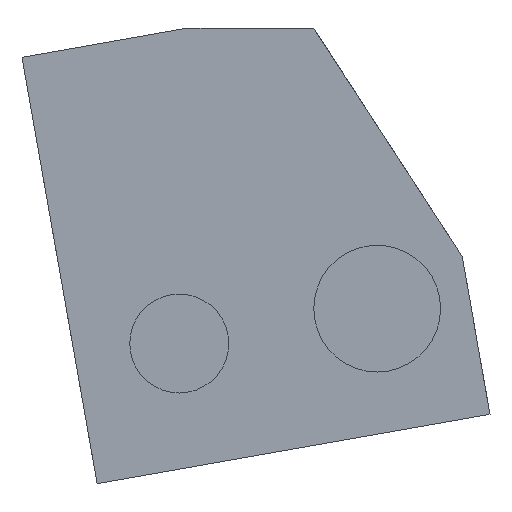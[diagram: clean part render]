
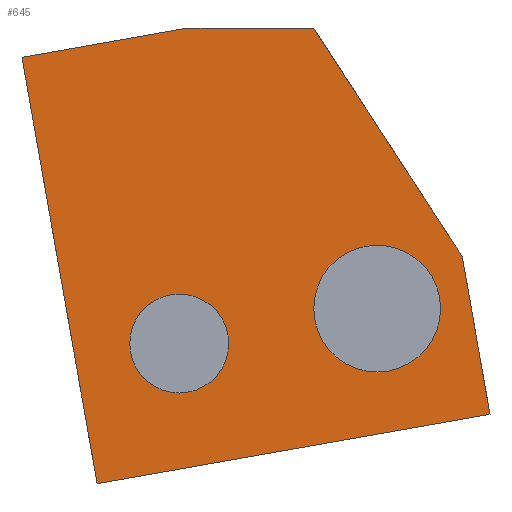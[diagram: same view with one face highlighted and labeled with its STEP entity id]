
A CAD part, left-side view. The second image highlights one B-rep face of the part: STEP entity #645.
In plain terms, the highlighted planar face has unit normal (-1, 0, 0).
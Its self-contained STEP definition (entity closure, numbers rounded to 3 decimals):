
#20=FACE_BOUND('',#115,.T.);
#21=FACE_BOUND('',#116,.T.);
#43=PLANE('',#713);
#75=FACE_OUTER_BOUND('',#114,.T.);
#114=EDGE_LOOP('',(#510,#511,#512,#513,#514,#515));
#115=EDGE_LOOP('',(#516));
#116=EDGE_LOOP('',(#517));
#162=LINE('',#1005,#223);
#167=LINE('',#1025,#228);
#171=LINE('',#1036,#232);
#172=LINE('',#1039,#233);
#173=LINE('',#1041,#234);
#174=LINE('',#1042,#235);
#223=VECTOR('',#797,10.);
#228=VECTOR('',#816,10.);
#232=VECTOR('',#828,10.);
#233=VECTOR('',#831,10.);
#234=VECTOR('',#832,10.);
#235=VECTOR('',#833,10.);
#286=CIRCLE('',#714,1.6);
#287=CIRCLE('',#715,2.05);
#315=VERTEX_POINT('',#1003);
#316=VERTEX_POINT('',#1004);
#324=VERTEX_POINT('',#1024);
#327=VERTEX_POINT('',#1034);
#328=VERTEX_POINT('',#1038);
#329=VERTEX_POINT('',#1040);
#330=VERTEX_POINT('',#1043);
#331=VERTEX_POINT('',#1045);
#383=EDGE_CURVE('',#315,#316,#162,.T.);
#393=EDGE_CURVE('',#316,#324,#167,.T.);
#399=EDGE_CURVE('',#315,#327,#171,.F.);
#400=EDGE_CURVE('',#327,#328,#172,.T.);
#401=EDGE_CURVE('',#328,#329,#173,.T.);
#402=EDGE_CURVE('',#324,#329,#174,.T.);
#403=EDGE_CURVE('',#330,#330,#286,.T.);
#404=EDGE_CURVE('',#331,#331,#287,.T.);
#510=ORIENTED_EDGE('',*,*,#383,.F.);
#511=ORIENTED_EDGE('',*,*,#399,.T.);
#512=ORIENTED_EDGE('',*,*,#400,.T.);
#513=ORIENTED_EDGE('',*,*,#401,.T.);
#514=ORIENTED_EDGE('',*,*,#402,.F.);
#515=ORIENTED_EDGE('',*,*,#393,.F.);
#516=ORIENTED_EDGE('',*,*,#403,.T.);
#517=ORIENTED_EDGE('',*,*,#404,.T.);
#645=ADVANCED_FACE('',(#75,#20,#21),#43,.F.);
#713=AXIS2_PLACEMENT_3D('',#1037,#829,#830);
#714=AXIS2_PLACEMENT_3D('',#1044,#834,#835);
#715=AXIS2_PLACEMENT_3D('',#1046,#836,#837);
#797=DIRECTION('',(0.,-0.545,-0.838));
#816=DIRECTION('',(0.,-0.174,-0.985));
#828=DIRECTION('',(0.,-1.,0.));
#829=DIRECTION('center_axis',(1.,0.,0.));
#830=DIRECTION('ref_axis',(0.,-0.174,-0.985));
#831=DIRECTION('',(0.,0.985,-0.174));
#832=DIRECTION('',(0.,-0.174,-0.985));
#833=DIRECTION('',(0.,0.985,-0.174));
#834=DIRECTION('center_axis',(1.,0.,0.));
#835=DIRECTION('ref_axis',(0.,0.985,-0.174));
#836=DIRECTION('center_axis',(1.,0.,0.));
#837=DIRECTION('ref_axis',(0.,-1.,0.));
#1003=CARTESIAN_POINT('',(41.226,-307.704,65.023));
#1004=CARTESIAN_POINT('',(41.226,-312.506,57.637));
#1005=CARTESIAN_POINT('',(41.226,-301.452,74.638));
#1024=CARTESIAN_POINT('',(41.226,-313.405,52.542));
#1025=CARTESIAN_POINT('',(41.226,-309.671,73.715));
#1034=CARTESIAN_POINT('',(41.226,-303.57,65.023));
#1036=CARTESIAN_POINT('',(41.226,-299.226,65.023));
#1037=CARTESIAN_POINT('Origin',(41.226,-283.274,81.753));
#1038=CARTESIAN_POINT('',(41.226,-298.27,64.089));
#1039=CARTESIAN_POINT('',(41.226,-300.83,64.54));
#1040=CARTESIAN_POINT('',(41.226,-300.701,50.302));
#1041=CARTESIAN_POINT('',(41.226,-299.485,57.195));
#1042=CARTESIAN_POINT('',(41.226,-280.807,46.794));
#1043=CARTESIAN_POINT('',(41.226,-304.93,55.109));
#1044=CARTESIAN_POINT('Origin',(41.226,-303.354,54.831));
#1045=CARTESIAN_POINT('',(41.226,-307.706,55.96));
#1046=CARTESIAN_POINT('Origin',(41.226,-309.756,55.96));
